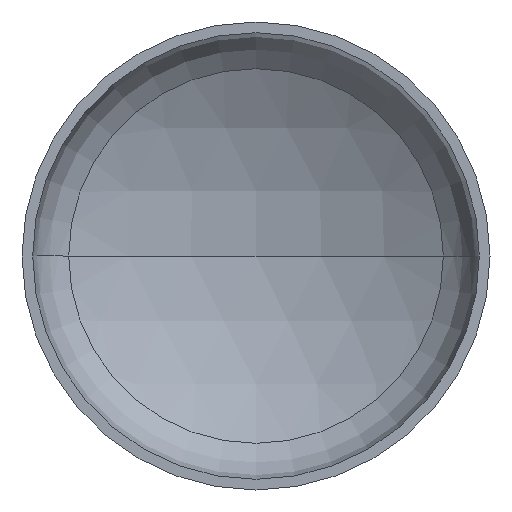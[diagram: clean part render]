
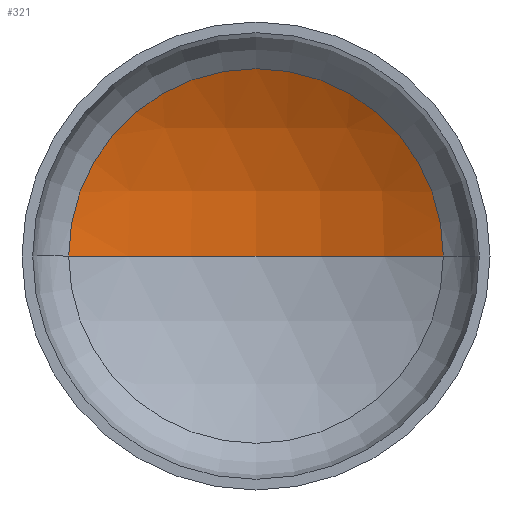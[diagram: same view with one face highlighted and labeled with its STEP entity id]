
A CAD part, front view. The second image highlights one B-rep face of the part: STEP entity #321.
In plain terms, the highlighted spherical face has radius 4000 mm.
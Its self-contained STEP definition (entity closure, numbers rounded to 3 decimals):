
#5 = AXIS2_PLACEMENT_3D ( 'NONE', #258, #178, #373 ) ;
#7 = DIRECTION ( 'NONE',  ( 0., -1., 0. ) ) ;
#8 = ORIENTED_EDGE ( 'NONE', *, *, #118, .T. ) ;
#19 = CARTESIAN_POINT ( 'NONE',  ( 0., -2721.684, 0. ) ) ;
#20 = EDGE_LOOP ( 'NONE', ( #24, #129, #8 ) ) ;
#24 = ORIENTED_EDGE ( 'NONE', *, *, #359, .F. ) ;
#43 = AXIS2_PLACEMENT_3D ( 'NONE', #159, #390, #162 ) ;
#45 = VERTEX_POINT ( 'NONE', #252 ) ;
#46 = SPHERICAL_SURFACE ( 'NONE', #43, 4000. ) ;
#48 = AXIS2_PLACEMENT_3D ( 'NONE', #19, #393, #260 ) ;
#58 = AXIS2_PLACEMENT_3D ( 'NONE', #301, #7, #356 ) ;
#97 = VERTEX_POINT ( 'NONE', #253 ) ;
#118 = EDGE_CURVE ( 'NONE', #97, #124, #288, .T. ) ;
#121 = EDGE_CURVE ( 'NONE', #45, #97, #291, .T. ) ;
#124 = VERTEX_POINT ( 'NONE', #139 ) ;
#129 = ORIENTED_EDGE ( 'NONE', *, *, #121, .T. ) ;
#139 = CARTESIAN_POINT ( 'NONE',  ( -2001.238, 741.702, 0. ) ) ;
#159 = CARTESIAN_POINT ( 'NONE',  ( 0., -2721.684, 0. ) ) ;
#162 = DIRECTION ( 'NONE',  ( -1., 0., 0. ) ) ;
#178 = DIRECTION ( 'NONE',  ( 0., 0., 1. ) ) ;
#252 = CARTESIAN_POINT ( 'NONE',  ( 0., 1278.316, 0. ) ) ;
#253 = CARTESIAN_POINT ( 'NONE',  ( 2001.238, 741.702, 0. ) ) ;
#258 = CARTESIAN_POINT ( 'NONE',  ( 0., -2721.684, 0. ) ) ;
#260 = DIRECTION ( 'NONE',  ( -1., 0., 0. ) ) ;
#281 = FACE_OUTER_BOUND ( 'NONE', #20, .T. ) ;
#288 = CIRCLE ( 'NONE', #58, 2001.238 ) ;
#291 = CIRCLE ( 'NONE', #48, 4000. ) ;
#301 = CARTESIAN_POINT ( 'NONE',  ( 0., 741.702, 0. ) ) ;
#321 = ADVANCED_FACE ( 'NONE', ( #281 ), #46, .F. ) ;
#348 = CIRCLE ( 'NONE', #5, 4000. ) ;
#356 = DIRECTION ( 'NONE',  ( 1., 0., 0. ) ) ;
#359 = EDGE_CURVE ( 'NONE', #45, #124, #348, .T. ) ;
#373 = DIRECTION ( 'NONE',  ( 1., 0., 0. ) ) ;
#390 = DIRECTION ( 'NONE',  ( 0., 0., -1. ) ) ;
#393 = DIRECTION ( 'NONE',  ( 0., 0., -1. ) ) ;
